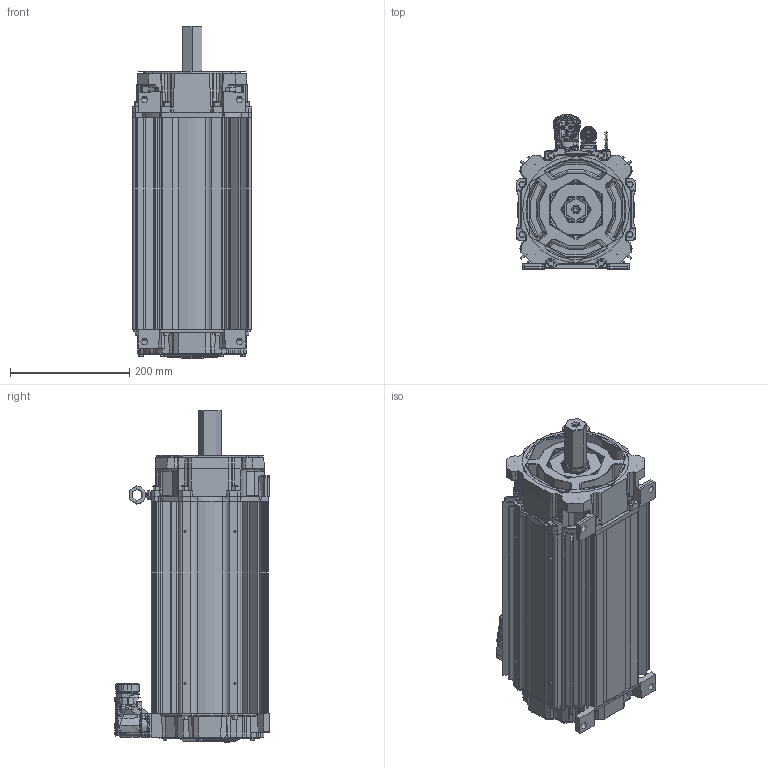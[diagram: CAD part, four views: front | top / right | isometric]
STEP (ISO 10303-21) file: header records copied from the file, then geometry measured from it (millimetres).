
FILE_DESCRIPTION((''),'2;1');
FILE_NAME('10001410891_ASM','2020-01-15T12:35:48',('VThimma'),('Rockwell Automation'),'CREO PARAMETRIC BY PTC INC, 2017380','CREO PARAMETRIC BY PTC INC, 2017380','');
FILE_SCHEMA(('CONFIG_CONTROL_DESIGN','SHAPE_APPEARANCE_LAYERS_GROUPS'));
Products named in the file (26): 10001371613; 10001238886_AF0; 10001298482_AF22; 10001284445_ASM; CH31X150; 10001406659_ASM; 10001336772_KEYLESS; 10001398824_ASM; 10001257630_AF255; 10001300098_AF227; 10001284488_ASM; 10001586886; 0002-5005; 10000014325-2; 10000014331; 10000014332-460; 10000014330-460_ASM; 10000172464; PWR40CONN-BRK; PWR40BASE; 10000806125_ASM; 221404-Q12; 10000569218; 10001290343; 10001609981; 10001410891_ASM
Assembly tree (52 placements, depth 4):
  10001410891_ASM
    10001406659_ASM
      10001371613
      10001284445_ASM
        10001238886_AF0
        10001298482_AF22
      CH31X150  x8
    10001398824_ASM
      10001336772_KEYLESS
    10001284488_ASM
      10001257630_AF255
      10001300098_AF227
    10001586886  x8
    0002-5005  x2
    10000014330-460_ASM
      10000014325-2
      10000014331
      10000014332-460
    10000172464  x4
    10000806125_ASM
      PWR40CONN-BRK
      PWR40BASE
    221404-Q12  x10
    10000569218
    10001290343
    10001609981
Bounding box: 200.45 x 260.05 x 557.79 mm (x, y, z)
Topology: 0 solids, 70 shells, 7395 faces, 19124 edges, 11888 vertices
Faces by surface type: cylinder 2187, plane 1759, bspline 1628, torus 918, cone 685, sphere 175, extrusion 42, revolution 1
Entity records: 380460 total; most frequent: CARTESIAN_POINT 149377, ORIENTED_EDGE 31605, DIRECTION 26537, PRESENTATION_STYLE_ASSIGNMENT 21984, STYLED_ITEM 21984, CURVE_STYLE 15914, EDGE_CURVE 15872, AXIS2_PLACEMENT_3D 10823
